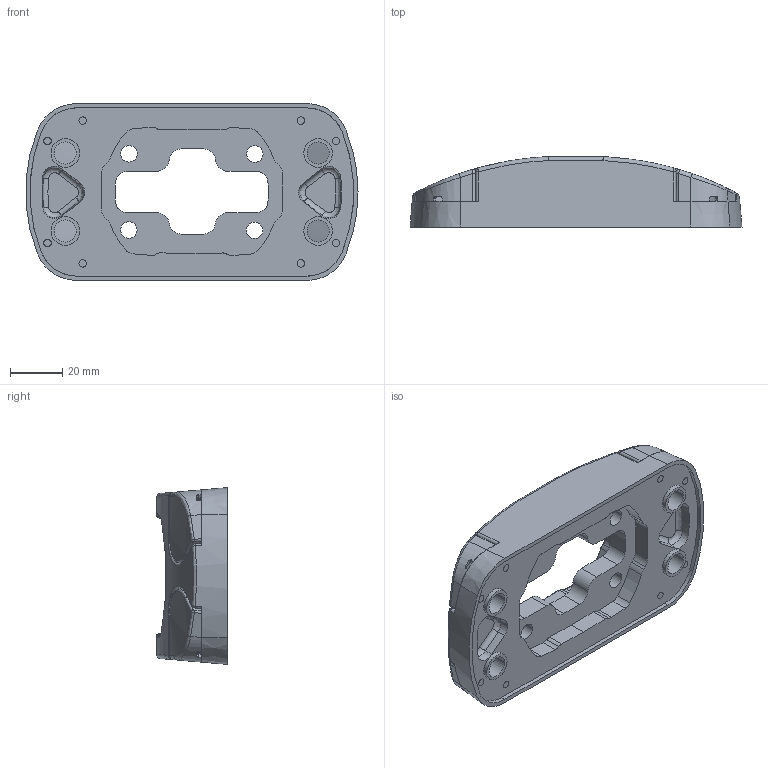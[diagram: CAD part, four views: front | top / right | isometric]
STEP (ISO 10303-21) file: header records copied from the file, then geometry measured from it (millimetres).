
FILE_DESCRIPTION (( 'STEP AP203' ), '1' );
FILE_NAME ('TP.045.9000.STEP', '2026-09-30T08:21:34', ( '' ), ( '' ), 'SwSTEP 2.0', 'SolidWorks 2015', '' );
FILE_SCHEMA (( 'CONFIG_CONTROL_DESIGN' ));
Length unit declared in the file: millimetre
Products named in the file (6): TP.045.9000_2; TP.045.9000_1; TP.045.9000; TP.045.9000_4; TP.045.9000_5; TP.045.9000_3
Assembly tree (5 placements, depth 2):
  TP.045.9000
    TP.045.9000_1
    TP.045.9000_2
    TP.045.9000_3
    TP.045.9000_4
    TP.045.9000_5
Bounding box: 127.63 x 27.06 x 67.96 mm (x, y, z)
Volume: 94081.8 mm3; surface area: 36506.3 mm2
Topology: 5 solids, 5 shells, 587 faces, 1505 edges, 941 vertices
Faces by surface type: bspline 320, cylinder 133, plane 122, cone 12
Entity records: 38878 total; most frequent: CARTESIAN_POINT 26398, ORIENTED_EDGE 3010, EDGE_CURVE 1505, DIRECTION 1474, VERTEX_POINT 941, B_SPLINE_CURVE_WITH_KNOTS 769, EDGE_LOOP 634, FACE_OUTER_BOUND 587
